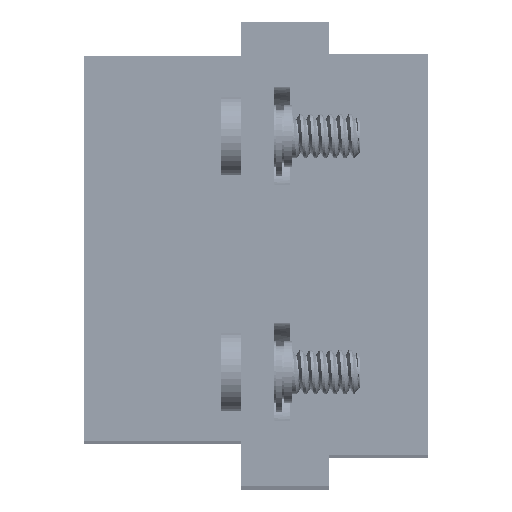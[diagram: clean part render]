
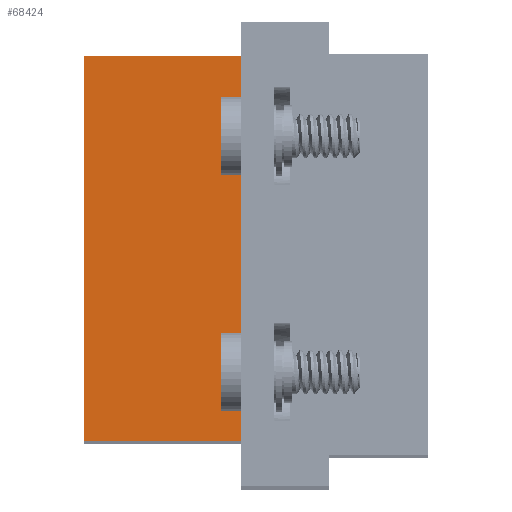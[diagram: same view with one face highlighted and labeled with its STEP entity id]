
A CAD part, top view. The second image highlights one B-rep face of the part: STEP entity #68424.
In plain terms, the highlighted planar face has unit normal (0, 0, 1).
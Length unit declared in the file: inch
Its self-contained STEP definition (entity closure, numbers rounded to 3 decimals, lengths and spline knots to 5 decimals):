
#37877=CARTESIAN_POINT('',(0.,0.115,5.305));
#37878=VERTEX_POINT('',#37877);
#37885=CARTESIAN_POINT('',(0.,1.095,5.305));
#37886=VERTEX_POINT('',#37885);
#37887=CARTESIAN_POINT('',(0.,1.095,5.305));
#37888=DIRECTION('',(0.0,-1.0,0.0));
#37889=VECTOR('',#37888,0.98);
#37890=LINE('',#37887,#37889);
#37891=EDGE_CURVE('',#37886,#37878,#37890,.T.);
#68394=CARTESIAN_POINT('',(0.523,1.095,5.305));
#68395=DIRECTION('',(0.0,0.0,1.0));
#68396=DIRECTION('',(-1.0,0.0,0.0));
#68397=AXIS2_PLACEMENT_3D('',#68394,#68395,#68396);
#68398=PLANE('',#68397);
#68399=CARTESIAN_POINT('',(0.398,1.095,5.305));
#68400=VERTEX_POINT('',#68399);
#68401=CARTESIAN_POINT('',(0.398,0.115,5.305));
#68402=VERTEX_POINT('',#68401);
#68403=CARTESIAN_POINT('',(0.398,1.095,5.305));
#68404=DIRECTION('',(0.0,-1.0,0.0));
#68405=VECTOR('',#68404,0.98);
#68406=LINE('',#68403,#68405);
#68407=EDGE_CURVE('',#68400,#68402,#68406,.T.);
#68408=ORIENTED_EDGE('',*,*,#68407,.F.);
#68409=CARTESIAN_POINT('',(0.398,1.095,5.305));
#68410=DIRECTION('',(-1.0,0.0,0.0));
#68411=VECTOR('',#68410,0.398);
#68412=LINE('',#68409,#68411);
#68413=EDGE_CURVE('',#68400,#37886,#68412,.T.);
#68414=ORIENTED_EDGE('',*,*,#68413,.T.);
#68415=ORIENTED_EDGE('',*,*,#37891,.T.);
#68416=CARTESIAN_POINT('',(0.398,0.115,5.305));
#68417=DIRECTION('',(-1.0,0.0,0.0));
#68418=VECTOR('',#68417,0.398);
#68419=LINE('',#68416,#68418);
#68420=EDGE_CURVE('',#68402,#37878,#68419,.T.);
#68421=ORIENTED_EDGE('',*,*,#68420,.F.);
#68422=EDGE_LOOP('',(#68408,#68414,#68415,#68421));
#68423=FACE_OUTER_BOUND('',#68422,.T.);
#68424=ADVANCED_FACE('',(#68423),#68398,.T.);
